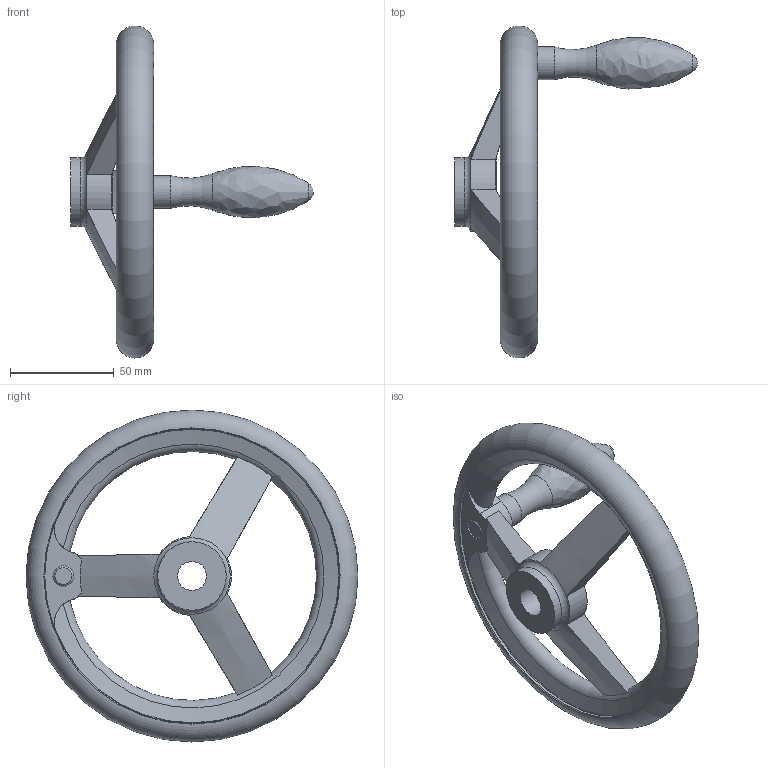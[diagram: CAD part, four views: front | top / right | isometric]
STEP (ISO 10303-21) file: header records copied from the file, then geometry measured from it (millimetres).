
FILE_DESCRIPTION( ( 'STEP AP203' ), '1' );
FILE_NAME( 'C:/Temp/Ganter_Step_05_03_2020/data/1_3/din_950/din_950_b/din_950_b_f/Handwheel DIN 950-AL-160-B14-F.stp', '2020-03-05T10:30:10', ( 'License CC BY-ND 4.0' ), ( 'CADENAS' ), ' ', 'PARTsolutions', ' ' );
FILE_SCHEMA( ( 'CONFIG_CONTROL_DESIGN' ) );
Length unit declared in the file: millimetre
Products named in the file (1): _Handwheel DIN 950-AL-160-B14-F
Bounding box: 117 x 159.99 x 159.99 mm (x, y, z)
Volume: 173890.9 mm3; surface area: 43471.9 mm2
Topology: 1 solids, 1 shells, 42 faces, 116 edges, 73 vertices
Faces by surface type: cylinder 13, plane 11, torus 11, cone 5, bspline 1, sphere 1
Full cylindrical faces by diameter (mm): 10 x1, 14 x1, 15.8 x1, 33 x2, 142 x2
Entity records: 1585 total; most frequent: CARTESIAN_POINT 600, DIRECTION 188, ORIENTED_EDGE 180, EDGE_CURVE 90, AXIS2_PLACEMENT_3D 89, VERTEX_POINT 69, EDGE_LOOP 67, FACE_OUTER_BOUND 58
